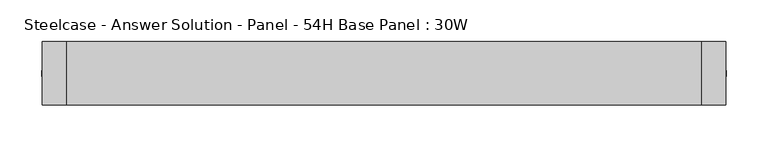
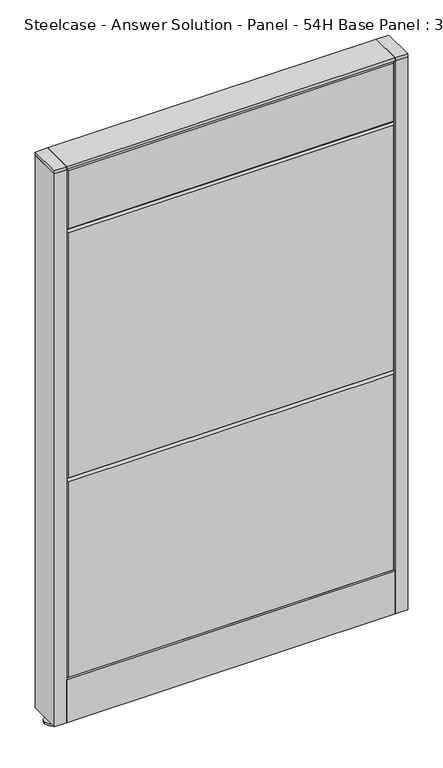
"""IFC4 building model written with IfcOpenShell, lengths in millimetres: furniture geometry, Steelcase - Answer Solution - Panel - 54H Base Panel : 30W."""

from ifc_helpers import new_model, si_unit, point, frame, frame_2d, origin, place, context, project, spatial, polyline, circle_curve, trimmed, segment, composite_curve, outline, extrude, faceted_brep, source, transform, mapped, element, save


def steelcase_answer_solution_panel_54h_base_panel_30w_47efa1de(model_context):
    return source(origin(), model_context, "Body", "SolidModel", [
        extrude(outline(composite_curve([segment(trimmed(circle_curve(frame_2d((395.224, 0.0320214)), 5.08), [point((400.304, 0.0320214))], [point((390.144, 0.0320214))], False, "CARTESIAN"), True, "CONTINUOUS"), segment(trimmed(circle_curve(frame_2d((395.224, 0.0320214)), 5.08), [point((390.144, 0.0320214))], [point((400.304, 0.0320214))], False, "CARTESIAN"), True, "CONTINUOUS")], self_intersect=False)), frame((0.0, 0.0, 5.0799671), z_axis=(0.0, 0.0, 1.0), x_axis=(1.0, 0.0, 0.0)), (0.0, 0.0, 1.0), 10.414),
        extrude(outline(composite_curve([segment(trimmed(circle_curve(frame_2d((395.224, 0.0320214)), 15.24), [point((410.464, 0.0320214))], [point((379.984, 0.0320214))], False, "CARTESIAN"), True, "CONTINUOUS"), segment(trimmed(circle_curve(frame_2d((395.224, 0.0320214)), 15.24), [point((379.984, 0.0320214))], [point((410.464, 0.0320214))], False, "CARTESIAN"), True, "CONTINUOUS")], self_intersect=False)), frame((0.0, 0.0, -3.29e-05), z_axis=(0.0, 0.0, 1.0), x_axis=(1.0, 0.0, 0.0)), (0.0, 0.0, 1.0), 5.08),
        extrude(outline(polyline([(409.575, 38.1320408), (409.575, -38.0679592), (381.0, -38.0679592), (381.0, 38.1320408), (409.575, 38.1320408)])), frame((0.0, 0.0, 1370.6348), z_axis=(0.0, 0.0, 1.0), x_axis=(1.0, 0.0, 0.0)), (0.0, 0.0, 1.0), 7.3151671),
        extrude(outline(polyline([(409.575, 38.1320408), (409.575, -38.0679592), (381.0, -38.0679592), (381.0, 38.1320408), (409.575, 38.1320408)])), frame((0.0, 0.0, 15.4939671), z_axis=(0.0, 0.0, 1.0), x_axis=(1.0, 0.0, 0.0)), (0.0, 0.0, 1.0), 1355.1408329),
        extrude(outline(composite_curve([segment(trimmed(circle_curve(frame_2d((-395.224, 0.0320214)), 5.08), [point((-400.304, 0.0320214))], [point((-390.144, 0.0320214))], False, "CARTESIAN"), True, "CONTINUOUS"), segment(trimmed(circle_curve(frame_2d((-395.224, 0.0320214)), 5.08), [point((-390.144, 0.0320214))], [point((-400.304, 0.0320214))], False, "CARTESIAN"), True, "CONTINUOUS")], self_intersect=False)), frame((0.0, 0.0, 5.0799671), z_axis=(0.0, 0.0, 1.0), x_axis=(1.0, 0.0, 0.0)), (0.0, 0.0, 1.0), 10.414),
        extrude(outline(composite_curve([segment(trimmed(circle_curve(frame_2d((-395.224, 0.0320214)), 15.24), [point((-410.464, 0.0320214))], [point((-379.984, 0.0320214))], False, "CARTESIAN"), True, "CONTINUOUS"), segment(trimmed(circle_curve(frame_2d((-395.224, 0.0320214)), 15.24), [point((-379.984, 0.0320214))], [point((-410.464, 0.0320214))], False, "CARTESIAN"), True, "CONTINUOUS")], self_intersect=False)), frame((0.0, 0.0, -3.29e-05), z_axis=(0.0, 0.0, 1.0), x_axis=(1.0, 0.0, 0.0)), (0.0, 0.0, 1.0), 5.08),
        extrude(outline(polyline([(-409.575, 38.1320408), (-381.0, 38.1320408), (-381.0, -38.0679592), (-409.575, -38.0679592), (-409.575, 38.1320408)])), frame((0.0, 0.0, 1370.6348), z_axis=(0.0, 0.0, 1.0), x_axis=(1.0, 0.0, 0.0)), (0.0, 0.0, 1.0), 7.3151671),
        extrude(outline(polyline([(-409.575, 38.1320408), (-381.0, 38.1320408), (-381.0, -38.0679592), (-409.575, -38.0679592), (-409.575, 38.1320408)])), frame((0.0, 0.0, 15.4939671), z_axis=(0.0, 0.0, 1.0), x_axis=(1.0, 0.0, 0.0)), (0.0, 0.0, 1.0), 1355.1408329),
        faceted_brep([(-376.174, 38.1635011, 1366.774), (376.174, 38.1635011, 1366.774), (376.174, 38.1635011, 1224.026), (-376.174, 38.1635011, 1224.026), (-381.0, 33.3375011, 1371.6), (-381.0, 33.3375011, 1219.2), (381.0, 33.3375011, 1219.2), (381.0, 33.3375011, 1371.6)], [[[0, 1, 2, 3]], [[4, 5, 6, 7]], [[4, 7, 1, 0]], [[7, 6, 2, 1]], [[6, 5, 3, 2]], [[5, 4, 0, 3]]]),
        faceted_brep([(-376.174, 38.1635011, 1214.374), (376.174, 38.1635011, 1214.374), (376.174, 38.1635011, 614.426), (-376.174, 38.1635011, 614.426), (-381.0, 33.3375011, 1219.2), (-381.0, 33.3375011, 609.6), (381.0, 33.3375011, 609.6), (381.0, 33.3375011, 1219.2)], [[[0, 1, 2, 3]], [[4, 5, 6, 7]], [[4, 7, 1, 0]], [[7, 6, 2, 1]], [[6, 5, 3, 2]], [[5, 4, 0, 3]]]),
        faceted_brep([(-376.174, 38.1635011, 604.774), (376.174, 38.1635011, 604.774), (376.174, 38.1635011, 125.476), (-376.174, 38.1635011, 125.476), (-381.0, 33.3375011, 609.6), (-381.0, 33.3375011, 120.65), (381.0, 33.3375011, 120.65), (381.0, 33.3375011, 609.6)], [[[0, 1, 2, 3]], [[4, 5, 6, 7]], [[4, 7, 1, 0]], [[7, 6, 2, 1]], [[6, 5, 3, 2]], [[5, 4, 0, 3]]]),
        faceted_brep([(376.174, -38.1635011, 1366.774), (-376.174, -38.1635011, 1366.774), (-376.174, -38.1635011, 1224.026), (376.174, -38.1635011, 1224.026), (381.0, -33.3375011, 1371.6), (381.0, -33.3375011, 1219.2), (-381.0, -33.3375011, 1219.2), (-381.0, -33.3375011, 1371.6)], [[[0, 1, 2, 3]], [[4, 5, 6, 7]], [[4, 7, 1, 0]], [[7, 6, 2, 1]], [[6, 5, 3, 2]], [[5, 4, 0, 3]]]),
        faceted_brep([(376.174, -38.1635011, 1214.374), (-376.174, -38.1635011, 1214.374), (-376.174, -38.1635011, 614.426), (376.174, -38.1635011, 614.426), (381.0, -33.3375011, 1219.2), (381.0, -33.3375011, 609.6), (-381.0, -33.3375011, 609.6), (-381.0, -33.3375011, 1219.2)], [[[0, 1, 2, 3]], [[4, 5, 6, 7]], [[4, 7, 1, 0]], [[7, 6, 2, 1]], [[6, 5, 3, 2]], [[5, 4, 0, 3]]]),
        faceted_brep([(376.174, -38.1635011, 604.774), (-376.174, -38.1635011, 604.774), (-376.174, -38.1635011, 125.476), (376.174, -38.1635011, 125.476), (381.0, -33.3375011, 609.6), (381.0, -33.3375011, 120.65), (-381.0, -33.3375011, 120.65), (-381.0, -33.3375011, 609.6)], [[[0, 1, 2, 3]], [[4, 5, 6, 7]], [[4, 7, 1, 0]], [[7, 6, 2, 1]], [[6, 5, 3, 2]], [[5, 4, 0, 3]]]),
        extrude(outline(polyline([(381.0, 38.1000194), (381.0, -38.1000194), (-381.0, -38.1000194), (-381.0, 38.1000194), (381.0, 38.1000194)])), frame((0.0, 0.0, 1371.6), z_axis=(0.0, 0.0, 1.0), x_axis=(1.0, 0.0, 0.0)), (0.0, 0.0, 1.0), 6.35),
        extrude(outline(polyline([(25.4000011, 119.8575157), (25.4000011, 120.65), (38.1000194, 120.65), (38.1000194, 15.494), (37.3075215, 15.494), (37.3075215, 119.8575157), (25.4000011, 119.8575157)])), frame((-381.0, 0.0, 0.0), z_axis=(1.0, 0.0, 0.0), x_axis=(0.0, 1.0, 0.0)), (0.0, 0.0, 1.0), 762.0),
        extrude(outline(polyline([(-25.4000011, 119.8575157), (-37.3075215, 119.8575157), (-37.3075215, 15.494), (-38.1000194, 15.494), (-38.1000194, 120.65), (-25.4000011, 120.65), (-25.4000011, 119.8575157)])), frame((-381.0, 0.0, 0.0), z_axis=(1.0, 0.0, 0.0), x_axis=(0.0, 1.0, 0.0)), (0.0, 0.0, 1.0), 762.0),
    ])


if __name__ == "__main__":
    model = new_model("IFC4")
    model_context = context("Model", 3, world=origin())
    ifc_project = project(units=[si_unit("LENGTHUNIT", "METRE", prefix="MILLI")], contexts=[model_context])
    site = spatial("IfcSite", under=ifc_project)
    building = spatial("IfcBuilding", under=site)
    placement = place(None, origin())
    steelcase_answer_solution_panel_54h_base_panel_30w_shape = steelcase_answer_solution_panel_54h_base_panel_30w_47efa1de(model_context)
    element("IfcFurniture", 1, ObjectType="Steelcase - Answer Solution - Panel - 54H Base Panel : 30W", at=placement, inside=building, context=model_context, shape_type="MappedRepresentation", body=[
        mapped(steelcase_answer_solution_panel_54h_base_panel_30w_shape, transform((0.0, 0.0, 0.0), x_axis=(1.0, 0.0, 0.0), y_axis=(0.0, 1.0, 0.0), z_axis=(0.0, 0.0, 1.0))),
    ])
    save(model, "model.ifc")
